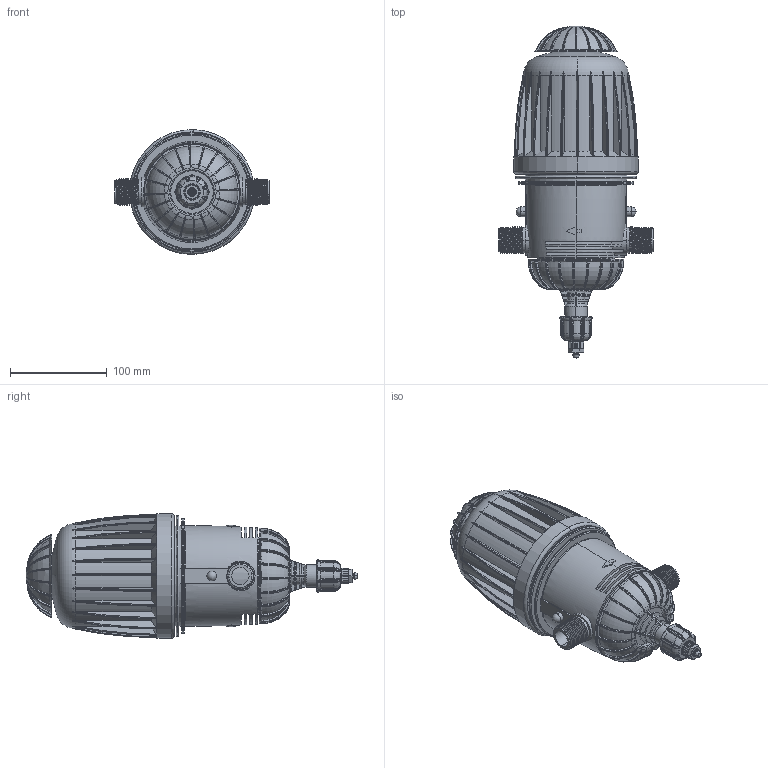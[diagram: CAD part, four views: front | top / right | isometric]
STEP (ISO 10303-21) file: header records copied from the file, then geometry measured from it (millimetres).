
FILE_DESCRIPTION (( 'STEP AP203' ), '1' );
FILE_NAME ('Assm2500-0.2-Per-AirReleaser-Fix(13016).STEP', '2011-05-23T05:24:49', ( 'Tefal' ), ( '' ), 'SwSTEP 2.0', 'SolidWorks 2010', '' );
FILE_SCHEMA (( 'CONFIG_CONTROL_DESIGN' ));
Products named in the file (16): Assm2500-0.2-Per-AirReleaser-Fix(13016); M2621-06-SO-3-4-Inch-Long-Nut-Ver0.(12464); SubAssem-M2618-New-Sec-Valve-Base(12520); M2622-01-SO-New Section-Valve-Spide(12467); M2619-SO-RubberSeal-Ver2.SLDPRT(12458); M2622-02-SO-New Section-Valve-Valve(12478); Valve Spring.SLDPRT(12510); Oring-2-114.SLDPRT(12484); M1620-SO-Main-Base.SLDPRT(8212); M1573-SO-100mm-MixRite-Cover.SLDPRT(12164); SubAssM1616-SO-AirVent(13019); M1616-SO-Air-Release Cover.SLDPRT(12318); M1615-SO-Lower Cover Nut.SLDPRT(9551); M2154-01-Cylinder_Support-0.2%.SLDP(9563); M2621-04-SO-New Section-Valve-8mm-A(12461); M1314-SO-Hose-Nut-8mm.SLDPRT(12433)
Assembly tree (15 placements, depth 3):
  Assm2500-0.2-Per-AirReleaser-Fix(13016)
    M1620-SO-Main-Base.SLDPRT(8212)
    M2621-04-SO-New Section-Valve-8mm-A(12461)
    M1314-SO-Hose-Nut-8mm.SLDPRT(12433)
    SubAssM1616-SO-AirVent(13019)
      M1616-SO-Air-Release Cover.SLDPRT(12318)
    M1573-SO-100mm-MixRite-Cover.SLDPRT(12164)
    M2621-06-SO-3-4-Inch-Long-Nut-Ver0.(12464)
    SubAssem-M2618-New-Sec-Valve-Base(12520)
      M2622-02-SO-New Section-Valve-Valve(12478)
      M2622-01-SO-New Section-Valve-Spide(12467)
      M2619-SO-RubberSeal-Ver2.SLDPRT(12458)
      Valve Spring.SLDPRT(12510)
      Oring-2-114.SLDPRT(12484)
    M1615-SO-Lower Cover Nut.SLDPRT(9551)
    M2154-01-Cylinder_Support-0.2%.SLDP(9563)
Bounding box: 160 x 343 x 128.97 mm (x, y, z)
Volume: 737372.9 mm3; surface area: 418971.1 mm2
Topology: 13 solids, 13 shells, 2042 faces, 5454 edges, 3450 vertices
Faces by surface type: cylinder 637, plane 493, torus 386, cone 259, bspline 254, sphere 13
Entity records: 233598 total; most frequent: CARTESIAN_POINT 184720, ORIENTED_EDGE 10818, DIRECTION 8969, EDGE_CURVE 5409, AXIS2_PLACEMENT_3D 3744, VERTEX_POINT 3446, EDGE_LOOP 2135, ADVANCED_FACE 2042
